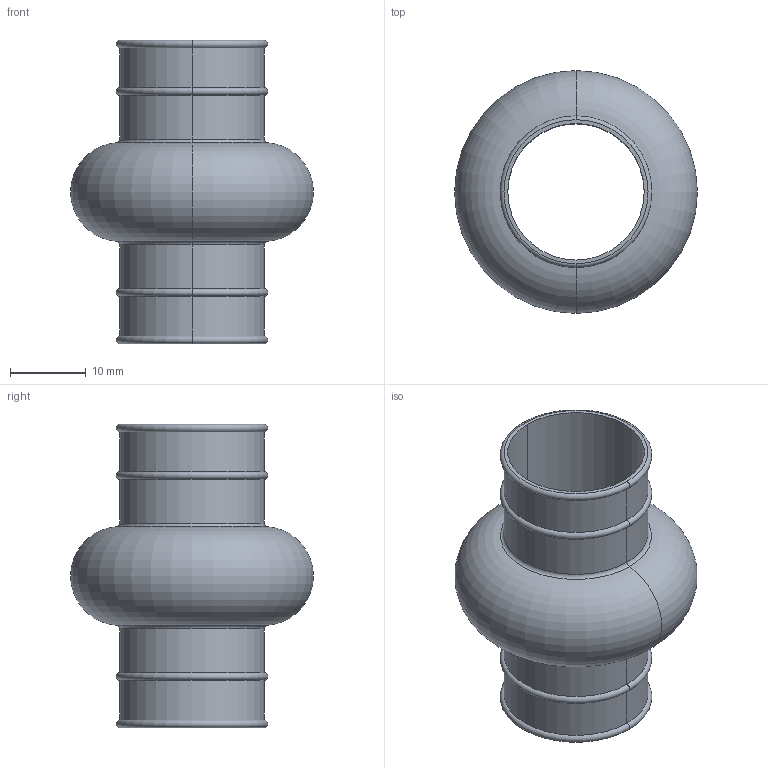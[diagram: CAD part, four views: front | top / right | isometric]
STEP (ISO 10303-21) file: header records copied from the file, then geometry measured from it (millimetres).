
FILE_DESCRIPTION (( 'STEP AP203' ), '1' );
FILE_NAME ('65280.W0018.step', '2018-06-20T18:11:27', ( '' ), ( '' ), 'SwSTEP 2.0', 'SolidWorks 2017', '' );
FILE_SCHEMA (( 'CONFIG_CONTROL_DESIGN' ));
Length unit declared in the file: millimetre
Products named in the file (1): 65280.W0018
Bounding box: 32 x 32 x 40 mm (x, y, z)
Volume: 1747.3 mm3; surface area: 6766.6 mm2
Topology: 1 solids, 1 shells, 30 faces, 60 edges, 32 vertices
Faces by surface type: torus 16, cylinder 12, plane 2
Entity records: 861 total; most frequent: DIRECTION 170, CARTESIAN_POINT 123, ORIENTED_EDGE 120, AXIS2_PLACEMENT_3D 79, EDGE_CURVE 60, CIRCLE 48, VERTEX_POINT 32, EDGE_LOOP 32
